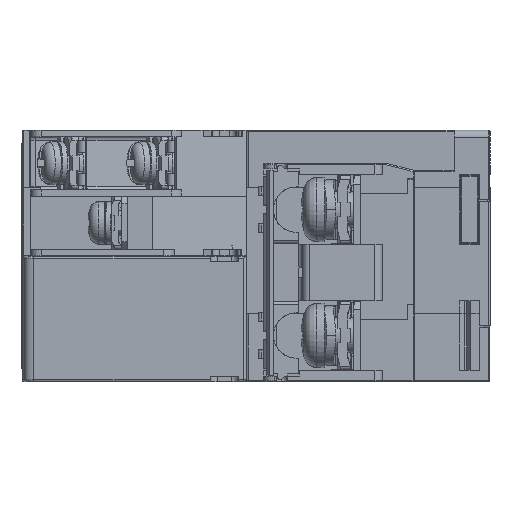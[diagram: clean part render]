
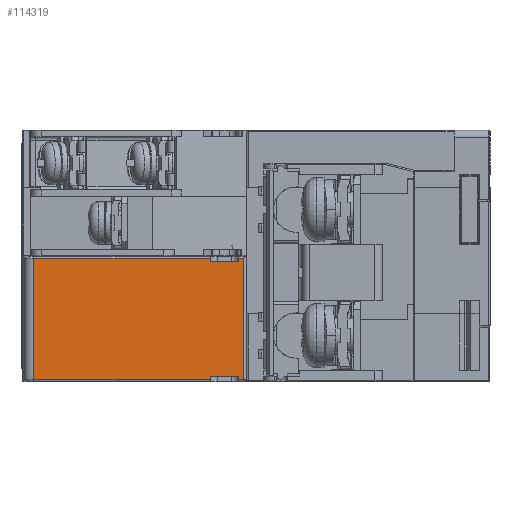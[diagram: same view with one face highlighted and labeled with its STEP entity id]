
A CAD part, left-side view. The second image highlights one B-rep face of the part: STEP entity #114319.
In plain terms, the highlighted planar face has unit normal (-1, 0, 0) as drawn and (1, 0, 0) by its records, which use the part's own axes.
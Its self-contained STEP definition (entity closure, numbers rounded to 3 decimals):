
#594 = VERTEX_POINT ( 'NONE', #90277 ) ;
#2196 = EDGE_CURVE ( 'NONE', #117431, #7015, #38372, .T. ) ;
#3704 = CARTESIAN_POINT ( 'NONE',  ( 4.8, 1., -8.45 ) ) ;
#4984 = VECTOR ( 'NONE', #100685, 1000. ) ;
#5579 = EDGE_CURVE ( 'NONE', #7015, #65401, #65628, .T. ) ;
#6449 = FACE_OUTER_BOUND ( 'NONE', #50251, .T. ) ;
#7015 = VERTEX_POINT ( 'NONE', #70832 ) ;
#7431 = CARTESIAN_POINT ( 'NONE',  ( 4.8, 5., -8.45 ) ) ;
#7816 = EDGE_CURVE ( 'NONE', #14906, #44517, #81705, .T. ) ;
#8195 = EDGE_CURVE ( 'NONE', #65401, #594, #39439, .T. ) ;
#8451 = DIRECTION ( 'NONE',  ( 0., -1., 0. ) ) ;
#8760 = DIRECTION ( 'NONE',  ( 0., 1., 0. ) ) ;
#12086 = CARTESIAN_POINT ( 'NONE',  ( 4.8, 5., -8.05 ) ) ;
#14417 = VECTOR ( 'NONE', #40546, 1000. ) ;
#14906 = VERTEX_POINT ( 'NONE', #84426 ) ;
#14924 = LINE ( 'NONE', #115764, #43399 ) ;
#15004 = ORIENTED_EDGE ( 'NONE', *, *, #7816, .F. ) ;
#15639 = VERTEX_POINT ( 'NONE', #85490 ) ;
#17920 = VERTEX_POINT ( 'NONE', #118630 ) ;
#20587 = AXIS2_PLACEMENT_3D ( 'NONE', #75648, #46701, #56360 ) ;
#23507 = EDGE_CURVE ( 'NONE', #17920, #46076, #14924, .T. ) ;
#24708 = ORIENTED_EDGE ( 'NONE', *, *, #8195, .T. ) ;
#27951 = EDGE_CURVE ( 'NONE', #46076, #44517, #111372, .T. ) ;
#30450 = VECTOR ( 'NONE', #105272, 1000. ) ;
#32026 = LINE ( 'NONE', #38229, #30450 ) ;
#32305 = CARTESIAN_POINT ( 'NONE',  ( 4.8, 1., 8.05 ) ) ;
#35760 = VERTEX_POINT ( 'NONE', #3704 ) ;
#36901 = ORIENTED_EDGE ( 'NONE', *, *, #117958, .F. ) ;
#38229 = CARTESIAN_POINT ( 'NONE',  ( 4.8, 1., -8.05 ) ) ;
#38372 = LINE ( 'NONE', #90558, #83411 ) ;
#38602 = VERTEX_POINT ( 'NONE', #7431 ) ;
#38900 = DIRECTION ( 'NONE',  ( 0., -1., 0. ) ) ;
#39439 = LINE ( 'NONE', #110704, #4984 ) ;
#39458 = EDGE_CURVE ( 'NONE', #54023, #38602, #58249, .T. ) ;
#39973 = LINE ( 'NONE', #12086, #14417 ) ;
#40546 = DIRECTION ( 'NONE',  ( 0., -1., 0. ) ) ;
#43011 = EDGE_CURVE ( 'NONE', #15639, #35760, #32026, .T. ) ;
#43399 = VECTOR ( 'NONE', #69272, 1000. ) ;
#44517 = VERTEX_POINT ( 'NONE', #93931 ) ;
#45020 = EDGE_CURVE ( 'NONE', #38602, #17920, #97609, .T. ) ;
#45044 = ORIENTED_EDGE ( 'NONE', *, *, #43011, .F. ) ;
#45928 = DIRECTION ( 'NONE',  ( 0., 1., 0. ) ) ;
#46076 = VERTEX_POINT ( 'NONE', #94204 ) ;
#46701 = DIRECTION ( 'NONE',  ( -1., 0., 0. ) ) ;
#47455 = VECTOR ( 'NONE', #45928, 1000. ) ;
#50207 = CARTESIAN_POINT ( 'NONE',  ( 4.8, 0., 8.45 ) ) ;
#50251 = EDGE_LOOP ( 'NONE', ( #66194, #59751, #82982, #24708, #51814, #45044, #36901, #68324, #89152, #78093, #113473, #15004 ) ) ;
#51814 = ORIENTED_EDGE ( 'NONE', *, *, #118755, .T. ) ;
#54023 = VERTEX_POINT ( 'NONE', #59001 ) ;
#55855 = DIRECTION ( 'NONE',  ( 0., 1., 0. ) ) ;
#56159 = VECTOR ( 'NONE', #94094, 1000. ) ;
#56360 = DIRECTION ( 'NONE',  ( 0., 0., 1. ) ) ;
#57765 = CARTESIAN_POINT ( 'NONE',  ( 4.8, 5., 8.05 ) ) ;
#58249 = LINE ( 'NONE', #75687, #82349 ) ;
#59001 = CARTESIAN_POINT ( 'NONE',  ( 4.8, 5., -8.05 ) ) ;
#59751 = ORIENTED_EDGE ( 'NONE', *, *, #2196, .T. ) ;
#65401 = VERTEX_POINT ( 'NONE', #65548 ) ;
#65548 = CARTESIAN_POINT ( 'NONE',  ( 4.8, 0.3, 8.45 ) ) ;
#65628 = LINE ( 'NONE', #84349, #119579 ) ;
#66194 = ORIENTED_EDGE ( 'NONE', *, *, #119944, .F. ) ;
#67873 = VECTOR ( 'NONE', #38900, 1000. ) ;
#68324 = ORIENTED_EDGE ( 'NONE', *, *, #39458, .T. ) ;
#69272 = DIRECTION ( 'NONE',  ( 0., 0., 1. ) ) ;
#70100 = VECTOR ( 'NONE', #8760, 1000. ) ;
#70832 = CARTESIAN_POINT ( 'NONE',  ( 4.8, 1., 8.45 ) ) ;
#71494 = LINE ( 'NONE', #104581, #47455 ) ;
#75648 = CARTESIAN_POINT ( 'NONE',  ( 4.8, 0., 8.75 ) ) ;
#75687 = CARTESIAN_POINT ( 'NONE',  ( 4.8, 5., -8.05 ) ) ;
#78093 = ORIENTED_EDGE ( 'NONE', *, *, #23507, .T. ) ;
#81705 = LINE ( 'NONE', #103278, #56159 ) ;
#82349 = VECTOR ( 'NONE', #96197, 1000. ) ;
#82982 = ORIENTED_EDGE ( 'NONE', *, *, #5579, .T. ) ;
#83411 = VECTOR ( 'NONE', #90138, 1000. ) ;
#84349 = CARTESIAN_POINT ( 'NONE',  ( 4.8, 0., 8.45 ) ) ;
#84426 = CARTESIAN_POINT ( 'NONE',  ( 4.8, 5., 8.05 ) ) ;
#85490 = CARTESIAN_POINT ( 'NONE',  ( 4.8, 1., -8.05 ) ) ;
#89152 = ORIENTED_EDGE ( 'NONE', *, *, #45020, .T. ) ;
#90138 = DIRECTION ( 'NONE',  ( 0., 0., 1. ) ) ;
#90277 = CARTESIAN_POINT ( 'NONE',  ( 4.8, 0.3, -8.45 ) ) ;
#90558 = CARTESIAN_POINT ( 'NONE',  ( 4.8, 1., 8.05 ) ) ;
#93931 = CARTESIAN_POINT ( 'NONE',  ( 4.8, 5., 8.45 ) ) ;
#94030 = LINE ( 'NONE', #57765, #70100 ) ;
#94094 = DIRECTION ( 'NONE',  ( 0., 0., 1. ) ) ;
#94204 = CARTESIAN_POINT ( 'NONE',  ( 4.8, 29.5, 8.45 ) ) ;
#96197 = DIRECTION ( 'NONE',  ( 0., 0., -1. ) ) ;
#97609 = LINE ( 'NONE', #113283, #123070 ) ;
#100685 = DIRECTION ( 'NONE',  ( 0., 0., -1. ) ) ;
#103278 = CARTESIAN_POINT ( 'NONE',  ( 4.8, 5., 8.05 ) ) ;
#104120 = PLANE ( 'NONE',  #20587 ) ;
#104581 = CARTESIAN_POINT ( 'NONE',  ( 4.8, 29.5, -8.45 ) ) ;
#105272 = DIRECTION ( 'NONE',  ( 0., 0., -1. ) ) ;
#110704 = CARTESIAN_POINT ( 'NONE',  ( 4.8, 0.3, 8.75 ) ) ;
#111372 = LINE ( 'NONE', #50207, #67873 ) ;
#113283 = CARTESIAN_POINT ( 'NONE',  ( 4.8, 29.5, -8.45 ) ) ;
#113473 = ORIENTED_EDGE ( 'NONE', *, *, #27951, .T. ) ;
#114319 = ADVANCED_FACE ( 'NONE', ( #6449 ), #104120, .F. ) ;
#115764 = CARTESIAN_POINT ( 'NONE',  ( 4.8, 29.5, 8.75 ) ) ;
#117431 = VERTEX_POINT ( 'NONE', #32305 ) ;
#117958 = EDGE_CURVE ( 'NONE', #54023, #15639, #39973, .T. ) ;
#118630 = CARTESIAN_POINT ( 'NONE',  ( 4.8, 29.5, -8.45 ) ) ;
#118755 = EDGE_CURVE ( 'NONE', #594, #35760, #71494, .T. ) ;
#119579 = VECTOR ( 'NONE', #8451, 1000. ) ;
#119944 = EDGE_CURVE ( 'NONE', #117431, #14906, #94030, .T. ) ;
#123070 = VECTOR ( 'NONE', #55855, 1000. ) ;
